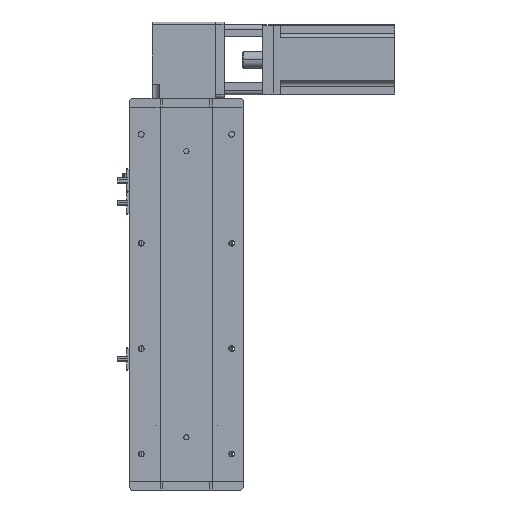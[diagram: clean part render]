
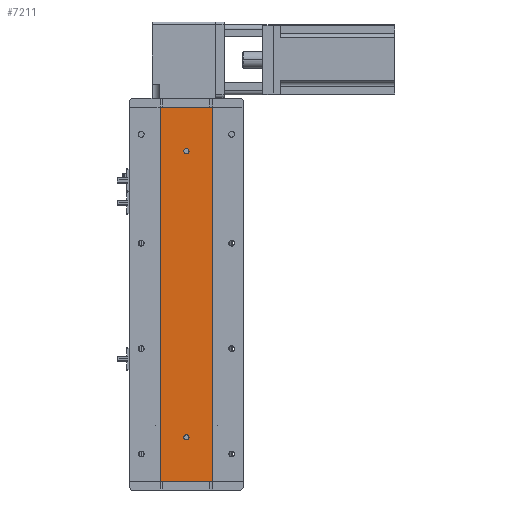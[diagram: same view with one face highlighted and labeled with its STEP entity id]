
A CAD part, left-side view. The second image highlights one B-rep face of the part: STEP entity #7211.
In plain terms, the highlighted planar face has unit normal (-1, 0, 0).
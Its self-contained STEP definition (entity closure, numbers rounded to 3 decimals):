
#1845 = CARTESIAN_POINT ( 'NONE',  ( -24.994, -29.785, 426. ) ) ;
#1969 = DIRECTION ( 'NONE',  ( 0., 0., -1. ) ) ;
#2606 = CARTESIAN_POINT ( 'NONE',  ( -24.994, 0., 50. ) ) ;
#3386 = VERTEX_POINT ( 'NONE', #40533 ) ;
#3478 = PLANE ( 'NONE',  #25892 ) ;
#3614 = DIRECTION ( 'NONE',  ( 1., 0., 0. ) ) ;
#4226 = CIRCLE ( 'NONE', #4574, 3. ) ;
#4237 = VECTOR ( 'NONE', #7900, 1000. ) ;
#4574 = AXIS2_PLACEMENT_3D ( 'NONE', #33983, #14040, #37326 ) ;
#5293 = DIRECTION ( 'NONE',  ( 0., 0., -1. ) ) ;
#5412 = EDGE_LOOP ( 'NONE', ( #35929, #22220, #25612, #17731 ) ) ;
#5992 = DIRECTION ( 'NONE',  ( 0., 0., 1. ) ) ;
#7211 = ADVANCED_FACE ( 'NONE', ( #34969, #19282, #35971 ), #3478, .F. ) ;
#7900 = DIRECTION ( 'NONE',  ( 0., -1., 0. ) ) ;
#8632 = DIRECTION ( 'NONE',  ( -1., 0., 0. ) ) ;
#8684 = DIRECTION ( 'NONE',  ( -1., 0., 0. ) ) ;
#8942 = EDGE_LOOP ( 'NONE', ( #29275, #26687 ) ) ;
#8954 = VECTOR ( 'NONE', #19295, 1000. ) ;
#9741 = CARTESIAN_POINT ( 'NONE',  ( -24.994, 0., 379. ) ) ;
#10667 = VERTEX_POINT ( 'NONE', #28391 ) ;
#10691 = EDGE_CURVE ( 'NONE', #3386, #29074, #39664, .T. ) ;
#11197 = EDGE_CURVE ( 'NONE', #29969, #14832, #40745, .T. ) ;
#14040 = DIRECTION ( 'NONE',  ( -1., 0., 0. ) ) ;
#14832 = VERTEX_POINT ( 'NONE', #17506 ) ;
#15161 = CARTESIAN_POINT ( 'NONE',  ( -24.994, 29.785, 426. ) ) ;
#15461 = CIRCLE ( 'NONE', #38894, 3. ) ;
#15521 = VERTEX_POINT ( 'NONE', #9741 ) ;
#16425 = EDGE_LOOP ( 'NONE', ( #42850, #22511 ) ) ;
#17411 = CIRCLE ( 'NONE', #33346, 3. ) ;
#17506 = CARTESIAN_POINT ( 'NONE',  ( -24.994, -29.785, 426. ) ) ;
#17731 = ORIENTED_EDGE ( 'NONE', *, *, #28503, .T. ) ;
#19282 = FACE_BOUND ( 'NONE', #16425, .T. ) ;
#19295 = DIRECTION ( 'NONE',  ( 0., -1., 0. ) ) ;
#21766 = EDGE_CURVE ( 'NONE', #15521, #22447, #15461, .T. ) ;
#22220 = ORIENTED_EDGE ( 'NONE', *, *, #31589, .F. ) ;
#22447 = VERTEX_POINT ( 'NONE', #25712 ) ;
#22511 = ORIENTED_EDGE ( 'NONE', *, *, #27051, .F. ) ;
#23516 = CARTESIAN_POINT ( 'NONE',  ( -24.994, 29.785, 426. ) ) ;
#23748 = VERTEX_POINT ( 'NONE', #31584 ) ;
#24166 = VECTOR ( 'NONE', #1969, 1000. ) ;
#25612 = ORIENTED_EDGE ( 'NONE', *, *, #11197, .F. ) ;
#25712 = CARTESIAN_POINT ( 'NONE',  ( -24.994, 0., 373. ) ) ;
#25881 = DIRECTION ( 'NONE',  ( -1., 0., 0. ) ) ;
#25892 = AXIS2_PLACEMENT_3D ( 'NONE', #23516, #3614, #26915 ) ;
#26627 = VECTOR ( 'NONE', #5293, 1000. ) ;
#26687 = ORIENTED_EDGE ( 'NONE', *, *, #37361, .F. ) ;
#26690 = LINE ( 'NONE', #39130, #8954 ) ;
#26915 = DIRECTION ( 'NONE',  ( 0., 0., -1. ) ) ;
#27051 = EDGE_CURVE ( 'NONE', #29074, #3386, #17411, .T. ) ;
#27687 = LINE ( 'NONE', #15161, #26627 ) ;
#28391 = CARTESIAN_POINT ( 'NONE',  ( -24.994, -29.785, 0. ) ) ;
#28503 = EDGE_CURVE ( 'NONE', #29969, #23748, #27687, .T. ) ;
#28591 = CARTESIAN_POINT ( 'NONE',  ( -24.994, 0., 376. ) ) ;
#28660 = CARTESIAN_POINT ( 'NONE',  ( -24.994, 0., 50. ) ) ;
#29074 = VERTEX_POINT ( 'NONE', #35096 ) ;
#29275 = ORIENTED_EDGE ( 'NONE', *, *, #21766, .F. ) ;
#29969 = VERTEX_POINT ( 'NONE', #30766 ) ;
#30766 = CARTESIAN_POINT ( 'NONE',  ( -24.994, 29.785, 426. ) ) ;
#31584 = CARTESIAN_POINT ( 'NONE',  ( -24.994, 29.785, 0. ) ) ;
#31589 = EDGE_CURVE ( 'NONE', #14832, #10667, #34105, .T. ) ;
#31964 = DIRECTION ( 'NONE',  ( 0., 0., 1. ) ) ;
#32033 = DIRECTION ( 'NONE',  ( 0., 0., 1. ) ) ;
#33346 = AXIS2_PLACEMENT_3D ( 'NONE', #2606, #25881, #5992 ) ;
#33983 = CARTESIAN_POINT ( 'NONE',  ( -24.994, 0., 376. ) ) ;
#34105 = LINE ( 'NONE', #1845, #24166 ) ;
#34153 = AXIS2_PLACEMENT_3D ( 'NONE', #28660, #8684, #32033 ) ;
#34969 = FACE_BOUND ( 'NONE', #8942, .T. ) ;
#35096 = CARTESIAN_POINT ( 'NONE',  ( -24.994, 0., 47. ) ) ;
#35929 = ORIENTED_EDGE ( 'NONE', *, *, #42236, .T. ) ;
#35971 = FACE_OUTER_BOUND ( 'NONE', #5412, .T. ) ;
#37326 = DIRECTION ( 'NONE',  ( 0., 0., 1. ) ) ;
#37361 = EDGE_CURVE ( 'NONE', #22447, #15521, #4226, .T. ) ;
#37763 = CARTESIAN_POINT ( 'NONE',  ( -24.994, 29.785, 426. ) ) ;
#38894 = AXIS2_PLACEMENT_3D ( 'NONE', #28591, #8632, #31964 ) ;
#39130 = CARTESIAN_POINT ( 'NONE',  ( -24.994, 29.785, 0. ) ) ;
#39664 = CIRCLE ( 'NONE', #34153, 3. ) ;
#40533 = CARTESIAN_POINT ( 'NONE',  ( -24.994, 0., 53. ) ) ;
#40745 = LINE ( 'NONE', #37763, #4237 ) ;
#42236 = EDGE_CURVE ( 'NONE', #23748, #10667, #26690, .T. ) ;
#42850 = ORIENTED_EDGE ( 'NONE', *, *, #10691, .F. ) ;
